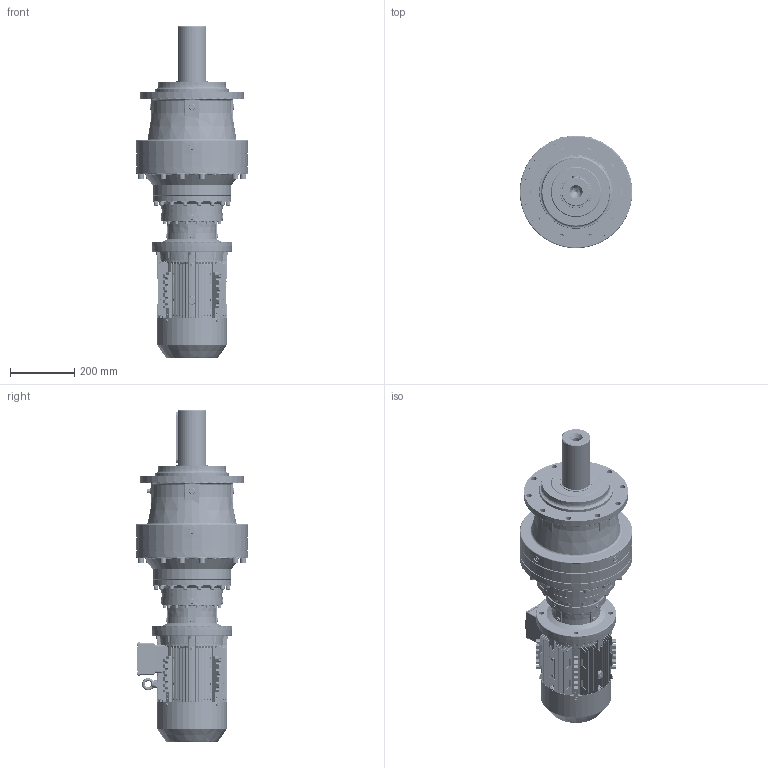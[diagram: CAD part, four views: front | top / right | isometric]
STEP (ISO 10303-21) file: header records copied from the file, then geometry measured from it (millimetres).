
FILE_DESCRIPTION (( 'STEP AP203' ), '1' );
FILE_NAME ('PVL_2303L-112M-4.STEP', '2019-05-10T10:00:08', ( '' ), ( '' ), 'SwSTEP 2.0', 'SolidWorks 2012', '' );
FILE_SCHEMA (( 'CONFIG_CONTROL_DESIGN' ));
Products named in the file (30): 11112B5_Varsayìlan; P23_Varsayìlan; EK2303L_Varsayìlan; ML31A_Varsayìlan; PVL_2303L-112M-4; MX3-112_B5; rivets for name plate gb_GB_OTHERRIVETS_TYPE93 2.5X5; DMX-IE3 112B5 flage; DMX-IE3 112  cable glands_1; eyebolts gb_GB_FASTENER_SCREWS_FRS M8-N_1; hexagon flange head tapping screws gb_GB_SQUARE_AND_HEXAGON_TYPE137 ST4.8X9.5 C-N_1; cross recessed pan head screws gb_GB_CROSS_SCREWS_TYPE1 M5X12-12  H type-N_1; DMX-IE3 112terminal box base_1; DMX-IE3 112terminal box cover_1; plain parallel keys_GB_CONNECTING_PIECE_KEYS_CSK 8X50_1; DMX-IE3 112   fan cover_1; spring lock washers--normal type gb_GB_FASTENER_WASHER_SW 8_1; hexagon nuts grade c gb_GB_FASTENER_NUT_SNC1 M8-N_1; hexagon socket head cap screws gb_GB_FASTENER_SCREWS_HSHCS M8X40-N_1; DMX-IE3 112 fan_1; DMX-IE3 oil seal_1; DMX-IE3 112M4  oil seal_1; circlips for shaft--type a large gb_GB_CONNECTING_PIECE_RING_RRA 28_1; deep groove ball bearings gb_Rolling bearings 6306 GB 276-94_1; DMX-IE3 112 shield_1; deep groove ball bearings gb_Rolling bearings 6206 GB 276-94_1; DMX-IE3 112M4 casing_1; FL7A_Varsayìlan; PNL_2303L_0_0_A11_B5_ML31A_FL7A_0_0_0_0_0_0_0_0_0_0_0_M1; DMX-IE3 112 shaft_1
Assembly tree (59 placements, depth 3):
  PVL_2303L-112M-4
    PNL_2303L_0_0_A11_B5_ML31A_FL7A_0_0_0_0_0_0_0_0_0_0_0_M1
      P23_Varsayìlan
      11112B5_Varsayìlan
      ML31A_Varsayìlan
      EK2303L_Varsayìlan
      FL7A_Varsayìlan
    MX3-112_B5
      DMX-IE3 112M4 casing_1
      DMX-IE3 112 shaft_1
      DMX-IE3 112 shield_1
      deep groove ball bearings gb_Rolling bearings 6306 GB 276-94_1
      deep groove ball bearings gb_Rolling bearings 6206 GB 276-94_1
      DMX-IE3 112M4  oil seal_1
      DMX-IE3 oil seal_1
      DMX-IE3 112 fan_1
      circlips for shaft--type a large gb_GB_CONNECTING_PIECE_RING_RRA 28_1
      spring lock washers--normal type gb_GB_FASTENER_WASHER_SW 8_1  x8
      hexagon nuts grade c gb_GB_FASTENER_NUT_SNC1 M8-N_1  x8
      hexagon socket head cap screws gb_GB_FASTENER_SCREWS_HSHCS M8X40-N_1  x8
      DMX-IE3 112   fan cover_1
      plain parallel keys_GB_CONNECTING_PIECE_KEYS_CSK 8X50_1
      DMX-IE3 112terminal box base_1
      DMX-IE3 112terminal box cover_1
      cross recessed pan head screws gb_GB_CROSS_SCREWS_TYPE1 M5X12-12  H type-N_1  x4
      eyebolts gb_GB_FASTENER_SCREWS_FRS M8-N_1
      hexagon flange head tapping screws gb_GB_SQUARE_AND_HEXAGON_TYPE137 ST4.8X9.5 C-N_1  x5
      DMX-IE3 112  cable glands_1  x2
      DMX-IE3 112B5 flage
      rivets for name plate gb_GB_OTHERRIVETS_TYPE93 2.5X5  x2
Bounding box: 350 x 350 x 1033.85 mm (x, y, z)
Volume: 30411862.7 mm3; surface area: 2708060.8 mm2
Topology: 65 solids, 71 shells, 9977 faces, 25532 edges, 15566 vertices
Faces by surface type: plane 3410, cylinder 2840, bspline 2055, cone 1278, torus 264, sphere 130
Entity records: 358227 total; most frequent: CARTESIAN_POINT 140251, ORIENTED_EDGE 47350, DIRECTION 42207, EDGE_CURVE 23678, AXIS2_PLACEMENT_3D 15980, VERTEX_POINT 14599, VECTOR 10247, LINE 10247
